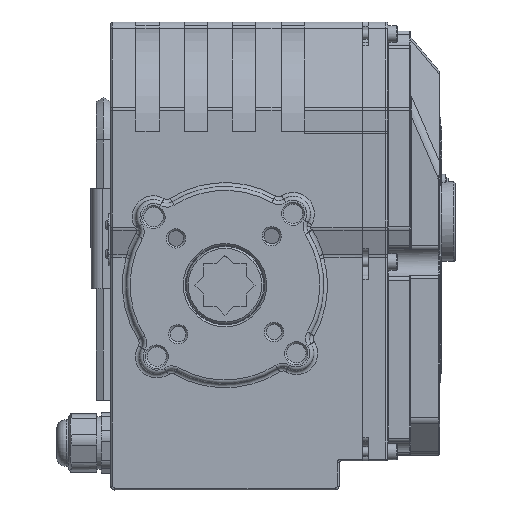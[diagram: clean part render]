
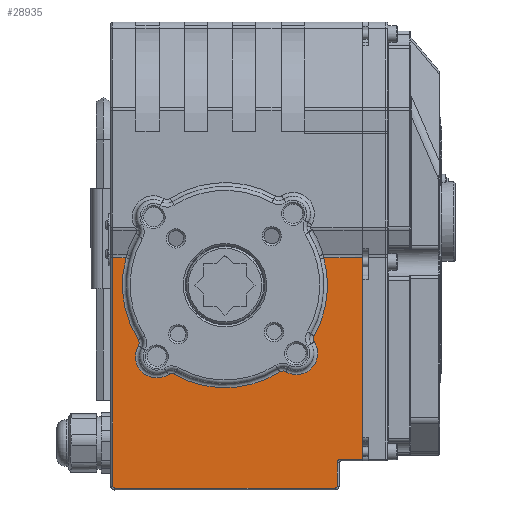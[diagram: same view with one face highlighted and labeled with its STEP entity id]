
A CAD part, front view. The second image highlights one B-rep face of the part: STEP entity #28935.
In plain terms, the highlighted planar face has unit normal (0, -1, 0).
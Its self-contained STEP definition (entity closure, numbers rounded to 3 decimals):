
#1705=PLANE('',#31444);
#3091=FACE_OUTER_BOUND('',#4754,.T.);
#4754=EDGE_LOOP('',(#21961,#21962,#21963,#21964,#21965,#21966,#21967,#21968,
#21969,#21970,#21971,#21972,#21973,#21974,#21975,#21976,#21977,#21978,#21979));
#6167=LINE('',#44000,#8264);
#6181=LINE('',#44195,#8278);
#6183=LINE('',#44215,#8280);
#6185=LINE('',#44232,#8282);
#6267=LINE('',#44553,#8364);
#6538=LINE('',#47011,#8635);
#6539=LINE('',#47030,#8636);
#8264=VECTOR('',#34740,10.);
#8278=VECTOR('',#34832,10.);
#8280=VECTOR('',#34844,10.);
#8282=VECTOR('',#34854,10.);
#8364=VECTOR('',#35146,10.);
#8635=VECTOR('',#36559,10.);
#8636=VECTOR('',#36578,10.);
#10310=CIRCLE('',#30717,2.);
#10340=CIRCLE('',#30761,1.);
#10344=CIRCLE('',#30766,1.);
#10731=CIRCLE('',#31445,53.);
#10732=CIRCLE('',#31446,3.);
#10733=CIRCLE('',#31447,11.);
#10734=CIRCLE('',#31448,3.);
#10735=CIRCLE('',#31449,53.);
#10736=CIRCLE('',#31450,3.);
#10737=CIRCLE('',#31451,11.);
#10738=CIRCLE('',#31452,3.);
#10739=CIRCLE('',#31453,53.);
#11955=VERTEX_POINT('',#43991);
#11956=VERTEX_POINT('',#43993);
#11958=VERTEX_POINT('',#43998);
#11986=VERTEX_POINT('',#44187);
#11988=VERTEX_POINT('',#44193);
#11990=VERTEX_POINT('',#44207);
#11992=VERTEX_POINT('',#44213);
#11994=VERTEX_POINT('',#44227);
#12093=VERTEX_POINT('',#44551);
#12541=VERTEX_POINT('',#47010);
#12542=VERTEX_POINT('',#47012);
#12543=VERTEX_POINT('',#47014);
#12544=VERTEX_POINT('',#47016);
#12545=VERTEX_POINT('',#47018);
#12546=VERTEX_POINT('',#47020);
#12547=VERTEX_POINT('',#47022);
#12548=VERTEX_POINT('',#47024);
#12549=VERTEX_POINT('',#47026);
#12550=VERTEX_POINT('',#47028);
#15052=EDGE_CURVE('',#11955,#11956,#10310,.T.);
#15055=EDGE_CURVE('',#11958,#11955,#6167,.T.);
#15098=EDGE_CURVE('',#11988,#11986,#6181,.T.);
#15101=EDGE_CURVE('',#11990,#11988,#10340,.T.);
#15104=EDGE_CURVE('',#11992,#11990,#6183,.T.);
#15107=EDGE_CURVE('',#11994,#11992,#10344,.T.);
#15109=EDGE_CURVE('',#11956,#11994,#6185,.T.);
#15255=EDGE_CURVE('',#12093,#11958,#6267,.T.);
#15961=EDGE_CURVE('',#12541,#12093,#6538,.T.);
#15962=EDGE_CURVE('',#12542,#12541,#10731,.T.);
#15963=EDGE_CURVE('',#12543,#12542,#10732,.T.);
#15964=EDGE_CURVE('',#12544,#12543,#10733,.T.);
#15965=EDGE_CURVE('',#12545,#12544,#10734,.T.);
#15966=EDGE_CURVE('',#12546,#12545,#10735,.T.);
#15967=EDGE_CURVE('',#12547,#12546,#10736,.T.);
#15968=EDGE_CURVE('',#12548,#12547,#10737,.T.);
#15969=EDGE_CURVE('',#12549,#12548,#10738,.T.);
#15970=EDGE_CURVE('',#12550,#12549,#10739,.T.);
#15971=EDGE_CURVE('',#11986,#12550,#6539,.T.);
#21961=ORIENTED_EDGE('',*,*,#15055,.F.);
#21962=ORIENTED_EDGE('',*,*,#15255,.F.);
#21963=ORIENTED_EDGE('',*,*,#15961,.F.);
#21964=ORIENTED_EDGE('',*,*,#15962,.F.);
#21965=ORIENTED_EDGE('',*,*,#15963,.F.);
#21966=ORIENTED_EDGE('',*,*,#15964,.F.);
#21967=ORIENTED_EDGE('',*,*,#15965,.F.);
#21968=ORIENTED_EDGE('',*,*,#15966,.F.);
#21969=ORIENTED_EDGE('',*,*,#15967,.F.);
#21970=ORIENTED_EDGE('',*,*,#15968,.F.);
#21971=ORIENTED_EDGE('',*,*,#15969,.F.);
#21972=ORIENTED_EDGE('',*,*,#15970,.F.);
#21973=ORIENTED_EDGE('',*,*,#15971,.F.);
#21974=ORIENTED_EDGE('',*,*,#15098,.F.);
#21975=ORIENTED_EDGE('',*,*,#15101,.F.);
#21976=ORIENTED_EDGE('',*,*,#15104,.F.);
#21977=ORIENTED_EDGE('',*,*,#15107,.F.);
#21978=ORIENTED_EDGE('',*,*,#15109,.F.);
#21979=ORIENTED_EDGE('',*,*,#15052,.F.);
#28935=ADVANCED_FACE('',(#3091),#1705,.T.);
#30717=AXIS2_PLACEMENT_3D('',#43994,#34732,#34733);
#30761=AXIS2_PLACEMENT_3D('',#44209,#34836,#34837);
#30766=AXIS2_PLACEMENT_3D('',#44229,#34848,#34849);
#31444=AXIS2_PLACEMENT_3D('',#47009,#36557,#36558);
#31445=AXIS2_PLACEMENT_3D('',#47013,#36560,#36561);
#31446=AXIS2_PLACEMENT_3D('',#47015,#36562,#36563);
#31447=AXIS2_PLACEMENT_3D('',#47017,#36564,#36565);
#31448=AXIS2_PLACEMENT_3D('',#47019,#36566,#36567);
#31449=AXIS2_PLACEMENT_3D('',#47021,#36568,#36569);
#31450=AXIS2_PLACEMENT_3D('',#47023,#36570,#36571);
#31451=AXIS2_PLACEMENT_3D('',#47025,#36572,#36573);
#31452=AXIS2_PLACEMENT_3D('',#47027,#36574,#36575);
#31453=AXIS2_PLACEMENT_3D('',#47029,#36576,#36577);
#34732=DIRECTION('center_axis',(0.,-1.,0.));
#34733=DIRECTION('ref_axis',(-0.707,0.,0.707));
#34740=DIRECTION('',(-1.,0.,0.));
#34832=DIRECTION('',(0.,0.,1.));
#34836=DIRECTION('center_axis',(0.,1.,0.));
#34837=DIRECTION('ref_axis',(-0.707,0.,-0.707));
#34844=DIRECTION('',(-1.,0.,0.));
#34848=DIRECTION('center_axis',(0.,1.,0.));
#34849=DIRECTION('ref_axis',(0.707,0.,-0.707));
#34854=DIRECTION('',(0.,0.,-1.));
#35146=DIRECTION('',(0.,0.,-1.));
#36557=DIRECTION('center_axis',(0.,-1.,0.));
#36558=DIRECTION('ref_axis',(0.,0.,-1.));
#36559=DIRECTION('',(1.,0.,0.));
#36560=DIRECTION('center_axis',(0.,-1.,0.));
#36561=DIRECTION('ref_axis',(0.993,0.,-0.117));
#36562=DIRECTION('center_axis',(0.,1.,0.));
#36563=DIRECTION('ref_axis',(-1.,0.,-0.026));
#36564=DIRECTION('center_axis',(0.,-1.,0.));
#36565=DIRECTION('ref_axis',(0.724,0.,-0.69));
#36566=DIRECTION('center_axis',(0.,1.,0.));
#36567=DIRECTION('ref_axis',(-0.021,0.,1.));
#36568=DIRECTION('center_axis',(0.,-1.,0.));
#36569=DIRECTION('ref_axis',(0.024,0.,-1.));
#36570=DIRECTION('center_axis',(0.,1.,0.));
#36571=DIRECTION('ref_axis',(-0.026,0.,1.));
#36572=DIRECTION('center_axis',(0.,-1.,0.));
#36573=DIRECTION('ref_axis',(-0.69,0.,-0.724));
#36574=DIRECTION('center_axis',(0.,1.,0.));
#36575=DIRECTION('ref_axis',(1.,0.,0.021));
#36576=DIRECTION('center_axis',(0.,-1.,0.));
#36577=DIRECTION('ref_axis',(-0.99,0.,-0.14));
#36578=DIRECTION('',(1.,0.,0.));
#43991=CARTESIAN_POINT('',(60.,-50.,-89.827));
#43993=CARTESIAN_POINT('',(58.,-50.,-91.827));
#43994=CARTESIAN_POINT('Origin',(60.,-50.,-91.827));
#43998=CARTESIAN_POINT('',(71.,-50.,-89.827));
#44000=CARTESIAN_POINT('',(-9.,-50.,-89.827));
#44187=CARTESIAN_POINT('',(-58.,-50.,14.213));
#44193=CARTESIAN_POINT('',(-58.,-50.,-103.827));
#44195=CARTESIAN_POINT('',(-58.,-50.,15.073));
#44207=CARTESIAN_POINT('',(-57.,-50.,-104.827));
#44209=CARTESIAN_POINT('Origin',(-57.,-50.,-103.827));
#44213=CARTESIAN_POINT('',(57.,-50.,-104.827));
#44215=CARTESIAN_POINT('',(-59.,-50.,-104.827));
#44227=CARTESIAN_POINT('',(58.,-50.,-103.827));
#44229=CARTESIAN_POINT('Origin',(57.,-50.,-103.827));
#44232=CARTESIAN_POINT('',(58.,-50.,46.458));
#44551=CARTESIAN_POINT('',(71.,-50.,14.213));
#44553=CARTESIAN_POINT('',(71.,-50.,15.073));
#47009=CARTESIAN_POINT('Origin',(-59.,-50.,15.073));
#47010=CARTESIAN_POINT('',(51.059,-50.,14.213));
#47011=CARTESIAN_POINT('',(-59.,-50.,14.213));
#47012=CARTESIAN_POINT('',(46.087,-50.,-26.173));
#47013=CARTESIAN_POINT('Origin',(0.,-50.,0.));
#47014=CARTESIAN_POINT('',(46.169,-50.,-29.271));
#47015=CARTESIAN_POINT('Origin',(48.696,-50.,-27.654));
#47016=CARTESIAN_POINT('',(31.418,-50.,-44.735));
#47017=CARTESIAN_POINT('Origin',(36.904,-50.,-35.201));
#47018=CARTESIAN_POINT('',(28.319,-50.,-44.8));
#47019=CARTESIAN_POINT('Origin',(29.922,-50.,-47.336));
#47020=CARTESIAN_POINT('',(-26.173,-50.,-46.087));
#47021=CARTESIAN_POINT('Origin',(0.,-50.,0.));
#47022=CARTESIAN_POINT('',(-29.271,-50.,-46.169));
#47023=CARTESIAN_POINT('Origin',(-27.654,-50.,-48.696));
#47024=CARTESIAN_POINT('',(-44.735,-50.,-31.418));
#47025=CARTESIAN_POINT('Origin',(-35.201,-50.,-36.904));
#47026=CARTESIAN_POINT('',(-44.8,-50.,-28.319));
#47027=CARTESIAN_POINT('Origin',(-47.336,-50.,-29.922));
#47028=CARTESIAN_POINT('',(-51.059,-50.,14.213));
#47029=CARTESIAN_POINT('Origin',(0.,-50.,0.));
#47030=CARTESIAN_POINT('',(-59.,-50.,14.213));
